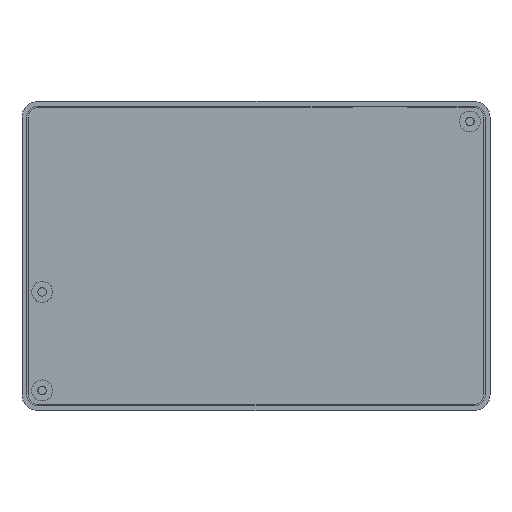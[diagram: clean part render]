
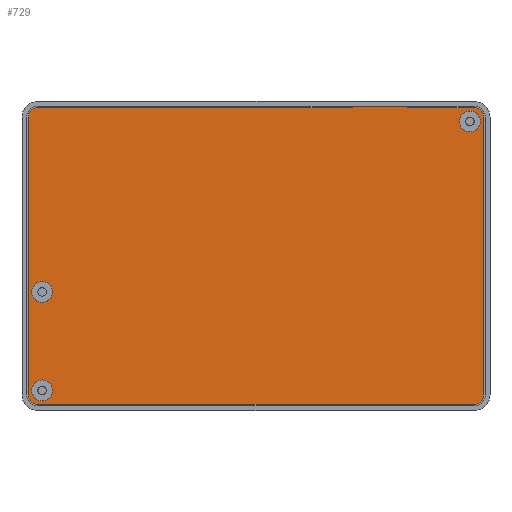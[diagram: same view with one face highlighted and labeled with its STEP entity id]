
A CAD part, top view. The second image highlights one B-rep face of the part: STEP entity #729.
In plain terms, the highlighted planar face has unit normal (0, 0, 1).
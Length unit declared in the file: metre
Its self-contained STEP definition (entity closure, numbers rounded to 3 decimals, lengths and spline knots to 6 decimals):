
#42=CIRCLE('',#791,0.0035);
#44=CIRCLE('',#795,0.0035);
#46=CIRCLE('',#799,0.0035);
#48=CIRCLE('',#803,0.0035);
#50=CIRCLE('',#808,0.00375);
#51=CIRCLE('',#809,0.00375);
#52=CIRCLE('',#810,0.00375);
#185=ORIENTED_EDGE('',*,*,#337,.F.);
#186=ORIENTED_EDGE('',*,*,#338,.F.);
#187=ORIENTED_EDGE('',*,*,#339,.F.);
#188=ORIENTED_EDGE('',*,*,#306,.F.);
#189=ORIENTED_EDGE('',*,*,#268,.T.);
#190=ORIENTED_EDGE('',*,*,#340,.T.);
#191=ORIENTED_EDGE('',*,*,#335,.T.);
#192=ORIENTED_EDGE('',*,*,#330,.F.);
#193=ORIENTED_EDGE('',*,*,#327,.T.);
#194=ORIENTED_EDGE('',*,*,#324,.T.);
#195=ORIENTED_EDGE('',*,*,#321,.T.);
#196=ORIENTED_EDGE('',*,*,#318,.T.);
#197=ORIENTED_EDGE('',*,*,#315,.T.);
#198=ORIENTED_EDGE('',*,*,#312,.T.);
#199=ORIENTED_EDGE('',*,*,#309,.T.);
#268=EDGE_CURVE('',#369,#368,#438,.T.);
#306=EDGE_CURVE('',#369,#396,#464,.T.);
#309=EDGE_CURVE('',#398,#396,#467,.T.);
#312=EDGE_CURVE('',#400,#398,#42,.T.);
#315=EDGE_CURVE('',#402,#400,#471,.T.);
#318=EDGE_CURVE('',#404,#402,#44,.T.);
#321=EDGE_CURVE('',#406,#404,#475,.T.);
#324=EDGE_CURVE('',#408,#406,#46,.T.);
#327=EDGE_CURVE('',#410,#408,#479,.T.);
#330=EDGE_CURVE('',#410,#412,#48,.T.);
#335=EDGE_CURVE('',#415,#412,#485,.T.);
#337=EDGE_CURVE('',#416,#416,#50,.T.);
#338=EDGE_CURVE('',#417,#417,#51,.T.);
#339=EDGE_CURVE('',#418,#418,#52,.T.);
#340=EDGE_CURVE('',#368,#415,#487,.T.);
#368=VERTEX_POINT('',#1080);
#369=VERTEX_POINT('',#1082);
#396=VERTEX_POINT('',#1158);
#398=VERTEX_POINT('',#1164);
#400=VERTEX_POINT('',#1170);
#402=VERTEX_POINT('',#1176);
#404=VERTEX_POINT('',#1182);
#406=VERTEX_POINT('',#1188);
#408=VERTEX_POINT('',#1194);
#410=VERTEX_POINT('',#1200);
#412=VERTEX_POINT('',#1206);
#415=VERTEX_POINT('',#1213);
#416=VERTEX_POINT('',#1220);
#417=VERTEX_POINT('',#1222);
#418=VERTEX_POINT('',#1224);
#438=LINE('',#1081,#502);
#464=LINE('',#1157,#528);
#467=LINE('',#1163,#531);
#471=LINE('',#1175,#535);
#475=LINE('',#1187,#539);
#479=LINE('',#1199,#543);
#485=LINE('',#1215,#549);
#487=LINE('',#1225,#551);
#502=VECTOR('',#852,1.);
#528=VECTOR('',#924,1.);
#531=VECTOR('',#929,1.);
#535=VECTOR('',#941,1.);
#539=VECTOR('',#953,1.);
#543=VECTOR('',#965,1.);
#549=VECTOR('',#979,1.);
#551=VECTOR('',#991,1.);
#587=EDGE_LOOP('',(#185));
#588=EDGE_LOOP('',(#186));
#589=EDGE_LOOP('',(#187));
#590=EDGE_LOOP('',(#188,#189,#190,#191,#192,#193,#194,#195,#196,#197,#198,
#199));
#645=FACE_BOUND('',#587,.T.);
#646=FACE_BOUND('',#588,.T.);
#647=FACE_BOUND('',#589,.T.);
#648=FACE_BOUND('',#590,.T.);
#694=PLANE('',#807);
#729=ADVANCED_FACE('',(#645,#646,#647,#648),#694,.T.);
#791=AXIS2_PLACEMENT_3D('',#1169,#934,#935);
#795=AXIS2_PLACEMENT_3D('',#1181,#946,#947);
#799=AXIS2_PLACEMENT_3D('',#1193,#958,#959);
#803=AXIS2_PLACEMENT_3D('',#1205,#970,#971);
#807=AXIS2_PLACEMENT_3D('',#1218,#983,#984);
#808=AXIS2_PLACEMENT_3D('',#1219,#985,#986);
#809=AXIS2_PLACEMENT_3D('',#1221,#987,#988);
#810=AXIS2_PLACEMENT_3D('',#1223,#989,#990);
#852=DIRECTION('',(-1.,0.,0.));
#924=DIRECTION('',(0.,-1.,0.));
#929=DIRECTION('',(-1.,0.,0.));
#934=DIRECTION('',(0.,0.,1.));
#935=DIRECTION('',(1.,0.,0.));
#941=DIRECTION('',(0.,1.,0.));
#946=DIRECTION('',(0.,0.,1.));
#947=DIRECTION('',(1.,0.,0.));
#953=DIRECTION('',(1.,0.,0.));
#958=DIRECTION('',(0.,0.,1.));
#959=DIRECTION('',(1.,0.,0.));
#965=DIRECTION('',(0.,-1.,0.));
#970=DIRECTION('',(0.,0.,-1.));
#971=DIRECTION('',(1.,0.,0.));
#979=DIRECTION('',(-1.,0.,0.));
#983=DIRECTION('',(0.,0.,1.));
#984=DIRECTION('',(1.,0.,0.));
#985=DIRECTION('',(0.,0.,1.));
#986=DIRECTION('',(1.,0.,0.));
#987=DIRECTION('',(0.,0.,1.));
#988=DIRECTION('',(1.,0.,0.));
#989=DIRECTION('',(0.,0.,1.));
#990=DIRECTION('',(1.,0.,0.));
#991=DIRECTION('',(0.,-1.,0.));
#1080=CARTESIAN_POINT('',(0.036403,0.059678,0.));
#1081=CARTESIAN_POINT('',(0.050903,0.059678,0.));
#1082=CARTESIAN_POINT('',(0.056403,0.059678,0.));
#1157=CARTESIAN_POINT('',(0.056403,0.059428,0.));
#1158=CARTESIAN_POINT('',(0.056403,0.059178,0.));
#1163=CARTESIAN_POINT('',(0.068303,0.059178,0.));
#1164=CARTESIAN_POINT('',(0.080203,0.059178,0.));
#1169=CARTESIAN_POINT('',(0.080203,0.055678,0.));
#1170=CARTESIAN_POINT('',(0.083703,0.055678,0.));
#1175=CARTESIAN_POINT('',(0.083703,0.005928,0.));
#1176=CARTESIAN_POINT('',(0.083703,-0.043822,0.));
#1181=CARTESIAN_POINT('',(0.080203,-0.043822,0.));
#1182=CARTESIAN_POINT('',(0.080203,-0.047322,0.));
#1187=CARTESIAN_POINT('',(0.001953,-0.047322,0.));
#1188=CARTESIAN_POINT('',(-0.076297,-0.047322,0.));
#1193=CARTESIAN_POINT('',(-0.076297,-0.043822,0.));
#1194=CARTESIAN_POINT('',(-0.079797,-0.043822,0.));
#1199=CARTESIAN_POINT('',(-0.079797,0.005928,0.));
#1200=CARTESIAN_POINT('',(-0.079797,0.055678,0.));
#1205=CARTESIAN_POINT('',(-0.076297,0.055678,0.));
#1206=CARTESIAN_POINT('',(-0.076297,0.059178,0.));
#1213=CARTESIAN_POINT('',(0.036403,0.059178,0.));
#1215=CARTESIAN_POINT('',(-0.015447,0.059178,0.));
#1218=CARTESIAN_POINT('',(0.001953,0.005928,0.));
#1219=CARTESIAN_POINT('',(-0.074797,-0.042322,0.));
#1220=CARTESIAN_POINT('',(-0.071047,-0.042322,0.));
#1221=CARTESIAN_POINT('',(0.078703,0.054178,0.));
#1222=CARTESIAN_POINT('',(0.082453,0.054178,0.));
#1223=CARTESIAN_POINT('',(-0.074797,-0.006972,0.));
#1224=CARTESIAN_POINT('',(-0.071047,-0.006972,0.));
#1225=CARTESIAN_POINT('',(0.036403,0.059428,0.));
